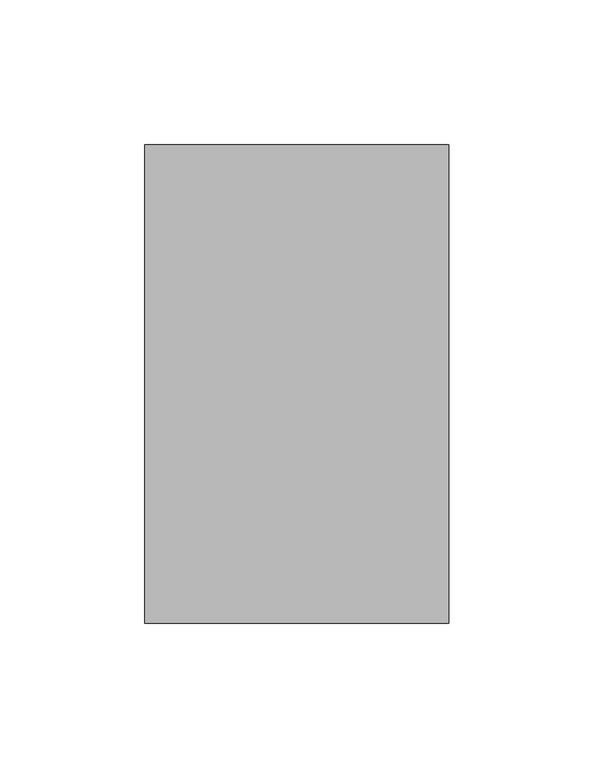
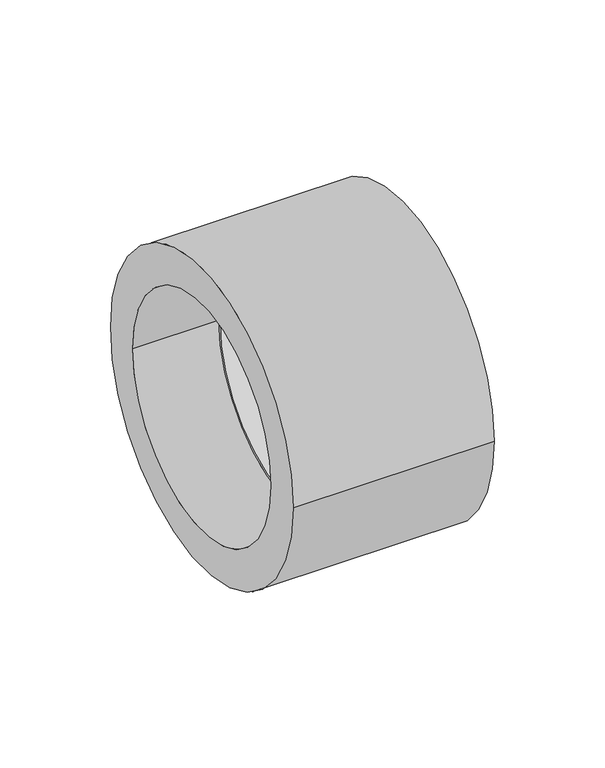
"""IFC4 building model written with IfcOpenShell, lengths in millimetres: pipe fitting geometry, 18_Муфта полипропиленовая : Белый цвет."""

from ifc_helpers import new_model, si_unit, frame, origin, place, context, project, spatial, polyline, circle_curve, source, transform, mapped, element, save
from ifc_brep_helpers import plane_surface, cylinder_surface, revolved_surface, advanced_brep


def pipe_fitting_7646ac9f(model_context):
    return source(origin(), model_context, "Body", "AdvancedBrep", [
        advanced_brep(
        [(-52.5, -82.6, 0.0), (-52.5, 82.6, 0.0), (-52.5, -62.5, 0.0), (-52.5, 62.5, 0.0), (52.5, -82.6, 0.0), (52.5, 82.6, 0.0), (52.5, 62.5, 0.0), (52.5, -62.5, 0.0), (7.5, -62.5, 0.0), (7.5, 62.5, 0.0), (7.5, 61.0, 0.0), (7.5, -61.0, 0.0), (-7.5, -62.5, 0.0), (-7.5, 62.5, 0.0), (-7.5, -61.0, 0.0), (-7.5, 61.0, 0.0)],
        [
            (0, 1, circle_curve(frame((-52.5, 0.0, 0.0), z_axis=(-1.0, 0.0, 0.0), x_axis=(0.0, 1.0, 0.0)), 82.6)),
            (1, 0, circle_curve(frame((-52.5, 0.0, 0.0), z_axis=(-1.0, 0.0, 0.0), x_axis=(0.0, 1.0, 0.0)), 82.6)),
            (2, 3, circle_curve(frame((-52.5, 0.0, 0.0), z_axis=(1.0, 0.0, 0.0), x_axis=(0.0, 1.0, 0.0)), 62.5)),
            (3, 2, circle_curve(frame((-52.5, 0.0, 0.0), z_axis=(1.0, 0.0, 0.0), x_axis=(0.0, 1.0, 0.0)), 62.5)),
            (4, 5, circle_curve(frame((52.5, 0.0, 0.0), z_axis=(1.0, 0.0, 0.0), x_axis=(0.0, 1.0, 0.0)), 82.6)),
            (5, 4, circle_curve(frame((52.5, 0.0, 0.0), z_axis=(1.0, 0.0, 0.0), x_axis=(0.0, 1.0, 0.0)), 82.6)),
            (6, 7, circle_curve(frame((52.5, 0.0, 0.0), z_axis=(-1.0, 0.0, 0.0), x_axis=(0.0, 1.0, 0.0)), 62.5)),
            (7, 6, circle_curve(frame((52.5, 0.0, 0.0), z_axis=(-1.0, 0.0, 0.0), x_axis=(0.0, 1.0, 0.0)), 62.5)),
            (0, 4),
            (5, 1),
            (8, 9, circle_curve(frame((7.5, 0.0, 0.0), z_axis=(1.0, 0.0, 0.0), x_axis=(0.0, 1.0, 0.0)), 62.5)),
            (9, 8, circle_curve(frame((7.5, 0.0, 0.0), z_axis=(1.0, 0.0, 0.0), x_axis=(0.0, 1.0, 0.0)), 62.5)),
            (10, 11, circle_curve(frame((7.5, 0.0, 0.0), z_axis=(-1.0, 0.0, 0.0), x_axis=(0.0, 1.0, 0.0)), 61.0)),
            (11, 10, circle_curve(frame((7.5, 0.0, 0.0), z_axis=(-1.0, 0.0, 0.0), x_axis=(0.0, 1.0, 0.0)), 61.0)),
            (8, 7),
            (6, 9),
            (12, 13, circle_curve(frame((-7.5, 0.0, 0.0), z_axis=(-1.0, 0.0, 0.0), x_axis=(0.0, 1.0, 0.0)), 62.5)),
            (13, 12, circle_curve(frame((-7.5, 0.0, 0.0), z_axis=(-1.0, 0.0, 0.0), x_axis=(0.0, 1.0, 0.0)), 62.5)),
            (14, 15, circle_curve(frame((-7.5, 0.0, 0.0), z_axis=(1.0, 0.0, 0.0), x_axis=(0.0, 1.0, 0.0)), 61.0)),
            (15, 14, circle_curve(frame((-7.5, 0.0, 0.0), z_axis=(1.0, 0.0, 0.0), x_axis=(0.0, 1.0, 0.0)), 61.0)),
            (13, 3),
            (2, 12),
            (10, 15),
            (14, 11),
        ],
        [
            plane_surface(frame((-52.5, 0.0, 0.0), z_axis=(-1.0, 0.0, 0.0), x_axis=(0.0, 0.0, 1.0))),
            plane_surface(frame((52.5, 0.0, 0.0), z_axis=(1.0, 0.0, 0.0), x_axis=(0.0, 0.0, 1.0))),
            cylinder_surface(frame((-52.5, 0.0, 0.0), z_axis=(-1.0, 0.0, 0.0), x_axis=(0.0, 1.0, 0.0)), 82.6),
            plane_surface(frame((7.5, 62.5, 0.0), z_axis=(1.0, 0.0, 0.0), x_axis=(0.0, 0.0, -1.0))),
            revolved_surface(polyline([(52.5, 62.5, 0.0), (7.5, 62.5, 0.0)]), (7.5, 0.0, 0.0), (1.0, 0.0, 0.0)),
            plane_surface(frame((-7.5, 62.5, 0.0), z_axis=(-1.0, 0.0, 0.0), x_axis=(0.0, 0.0, 1.0))),
            revolved_surface(polyline([(-52.5, 62.5, 0.0), (-7.5, 62.5, 0.0)]), (-7.5, 0.0, 0.0), (-1.0, 0.0, 0.0)),
            revolved_surface(polyline([(7.5, 61.0, 0.0), (-7.5, 61.0, 0.0)]), (-7.5, 0.0, 0.0), (1.0, 0.0, 0.0)),
        ],
        [
            (0, [[1, 2], [3, 4]]),
            (1, [[5, 6], [7, 8]]),
            (2, [[-1, 9, -6, 10]]),
            (2, [[-2, -10, -5, -9]]),
            (3, [[11, 12], [13, 14]]),
            (4, [[-11, 15, -7, 16]]),
            (4, [[-12, -16, -8, -15]]),
            (5, [[17, 18], [19, 20]]),
            (6, [[-18, 21, -3, 22]]),
            (6, [[-17, -22, -4, -21]]),
            (7, [[23, -19, 24, -13]]),
            (7, [[-23, -14, -24, -20]]),
        ],
    ),
    ])


if __name__ == "__main__":
    model = new_model("IFC4")
    model_context = context("Model", 3, world=origin())
    ifc_project = project(units=[si_unit("LENGTHUNIT", "METRE", prefix="MILLI")], contexts=[model_context])
    site = spatial("IfcSite", under=ifc_project)
    building = spatial("IfcBuilding", under=site)
    placement = place(None, origin())
    pipe_fitting_shape = pipe_fitting_7646ac9f(model_context)
    element("IfcPipeFitting", 1, ObjectType="18_Муфта полипропиленовая : Белый цвет", at=placement, inside=building, context=model_context, shape_type="MappedRepresentation", body=[
        mapped(pipe_fitting_shape, transform((0.0, 0.0, 0.0), x_axis=(1.0, 0.0, 0.0), y_axis=(0.0, 1.0, 0.0), z_axis=(0.0, 0.0, 1.0))),
    ])
    save(model, "model.ifc")
